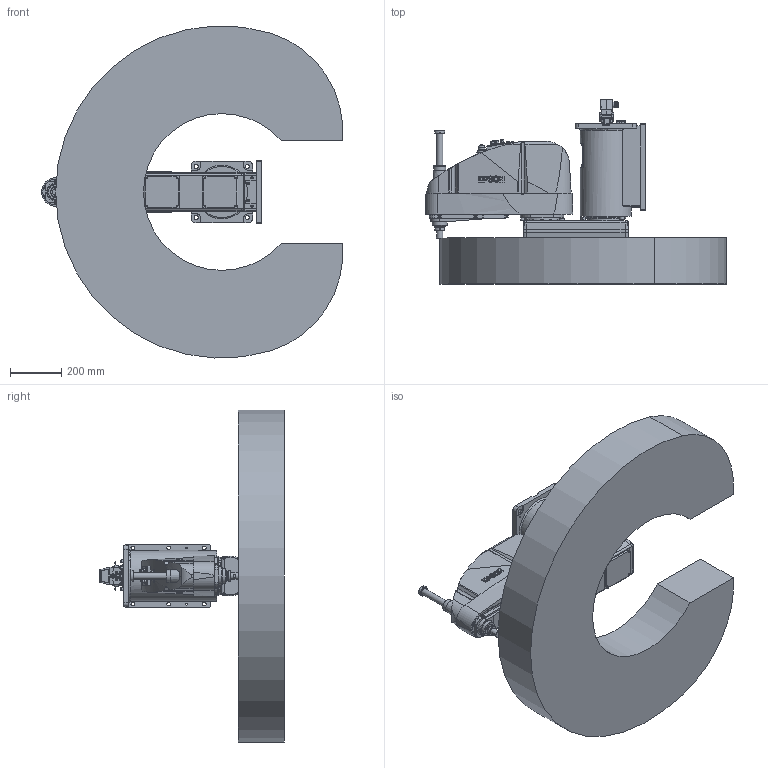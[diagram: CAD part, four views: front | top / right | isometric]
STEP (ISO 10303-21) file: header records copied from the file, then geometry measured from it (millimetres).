
FILE_DESCRIPTION( ( 'STEP AP214' ), '1' );
FILE_NAME( 'C:/Users/9607552/Desktop/GX10-B651SW_langle.stp', '2023-08-01T09:11:44', ( '' ), ( '' ), ' ', 'PARTsolutions', ' ' );
FILE_SCHEMA( ( 'AUTOMOTIVE_DESIGN { 1 0 10303 214 1 1 1 1 }' ) );
Length unit declared in the file: millimetre
Products named in the file (7): GX10-B651SWA-W; _Base sw; _Angle-B; _J1 Arm GX10-250 r/w; _J2 Arm GX10-s; _J3 Arm GX10-s (1); _GX10_20B-26_1
Assembly tree (6 placements, depth 2):
  GX10-B651SWA-W
    _Base sw
    _Angle-B
    _J1 Arm GX10-250 r/w
    _J2 Arm GX10-s
    _J3 Arm GX10-s (1)
    _GX10_20B-26_1
Bounding box: 1177.46 x 721.6 x 1298.81 mm (x, y, z)
Volume: 189508652.5 mm3; surface area: 4083978 mm2
Topology: 6 solids, 6 shells, 2527 faces, 6204 edges, 4059 vertices
Faces by surface type: plane 1327, cylinder 803, cone 302, torus 62, bspline 32, sphere 1
Full cylindrical faces by diameter (mm): 1 x24, 1.18 x55, 2.5 x2, 3 x32, 3.242 x10, 3.3 x4, 4.2 x4, 4.8 x4, 5.1 x4, 5.25 x2, 5.34 x8, 5.4 x5, 5.5 x16, 6 x2, 6.2 x4, 6.647 x2, 6.8 x2, 7 x23, 7.59 x8, 8 x9, 8.5 x2, 9 x4, 10 x32, 11 x14, 12 x6, 12.25 x1, 13 x8, 14 x20, 14.25 x1, 16 x6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
Entity records: 95677 total; most frequent: CARTESIAN_POINT 17913, DIRECTION 11897, ORIENTED_EDGE 11004, EDGE_CURVE 5502, AXIS2_PLACEMENT_3D 4547, VERTEX_POINT 3970, EDGE_LOOP 3564, FACE_OUTER_BOUND 2923
